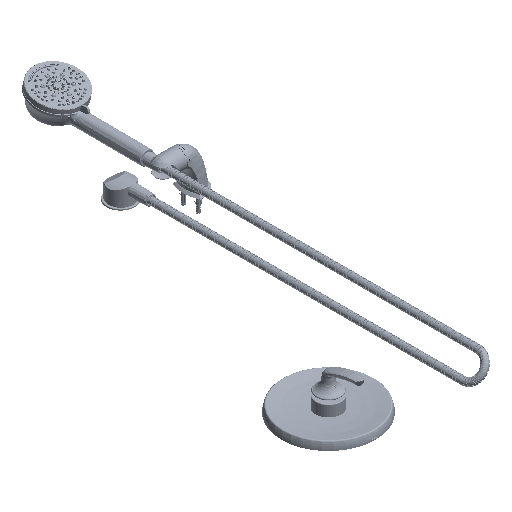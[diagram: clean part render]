
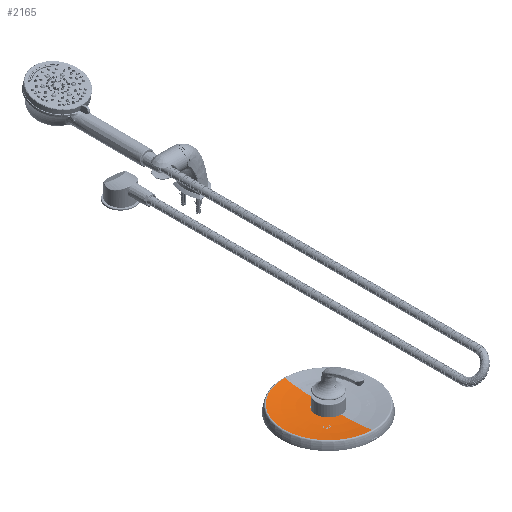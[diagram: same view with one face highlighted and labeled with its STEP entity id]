
A CAD part, isometric view. The second image highlights one B-rep face of the part: STEP entity #2165.
In plain terms, the highlighted toroidal (fillet/blend) face has major radius 24.22 mm and minor radius 411.226 mm.
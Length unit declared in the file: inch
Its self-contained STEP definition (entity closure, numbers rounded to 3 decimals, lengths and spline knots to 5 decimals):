
#2165 = ADVANCED_FACE ( 'NONE', ( #193964 ), #35028, .F. ) ;
#5084 = CARTESIAN_POINT ( 'NONE',  ( 0.0566, 13.55324, 0.61 ) ) ;
#16037 = VERTEX_POINT ( 'NONE', #16298 ) ;
#16298 = CARTESIAN_POINT ( 'NONE',  ( 0.01633, 11.02537, 0.4 ) ) ;
#28192 = CIRCLE ( 'NONE', #236576, 16.19 ) ;
#31257 = DIRECTION ( 'NONE',  ( 0.016, 1., 0. ) ) ;
#32469 = DIRECTION ( 'NONE',  ( 0., 0., -1. ) ) ;
#35028 = TOROIDAL_SURFACE ( 'NONE', #121570, 0.95354, 16.19 ) ;
#51766 = AXIS2_PLACEMENT_3D ( 'NONE', #230976, #62212, #233429 ) ;
#61093 = CIRCLE ( 'NONE', #242036, 3.55369 ) ;
#62212 = DIRECTION ( 'NONE',  ( 0., 0., -1. ) ) ;
#63411 = VERTEX_POINT ( 'NONE', #64283 ) ;
#64283 = CARTESIAN_POINT ( 'NONE',  ( -0.0566, 6.44676, 0.61 ) ) ;
#72945 = DIRECTION ( 'NONE',  ( -0.016, -1., 0. ) ) ;
#75199 = DIRECTION ( 'NONE',  ( 0.016, 1., 0. ) ) ;
#87896 = CARTESIAN_POINT ( 'NONE',  ( 0., 10., 16.58984 ) ) ;
#92641 = DIRECTION ( 'NONE',  ( -1., 0.016, 0. ) ) ;
#113381 = DIRECTION ( 'NONE',  ( 1., -0.016, 0. ) ) ;
#113906 = ORIENTED_EDGE ( 'NONE', *, *, #231250, .F. ) ;
#117555 = CIRCLE ( 'NONE', #160814, 16.19 ) ;
#121570 = AXIS2_PLACEMENT_3D ( 'NONE', #87896, #32469, #31257 ) ;
#122797 = ORIENTED_EDGE ( 'NONE', *, *, #161258, .F. ) ;
#133067 = CARTESIAN_POINT ( 'NONE',  ( -0.01519, 9.04658, 16.58984 ) ) ;
#134374 = CIRCLE ( 'NONE', #51766, 1.0255 ) ;
#160814 = AXIS2_PLACEMENT_3D ( 'NONE', #165376, #92641, #72945 ) ;
#161258 = EDGE_CURVE ( 'NONE', #205317, #16037, #117555, .T. ) ;
#165376 = CARTESIAN_POINT ( 'NONE',  ( 0.01519, 10.95342, 16.58984 ) ) ;
#171598 = VERTEX_POINT ( 'NONE', #210926 ) ;
#193964 = FACE_OUTER_BOUND ( 'NONE', #234454, .T. ) ;
#200100 = ORIENTED_EDGE ( 'NONE', *, *, #201385, .T. ) ;
#201385 = EDGE_CURVE ( 'NONE', #63411, #171598, #28192, .T. ) ;
#202031 = EDGE_CURVE ( 'NONE', #171598, #16037, #134374, .T. ) ;
#205317 = VERTEX_POINT ( 'NONE', #5084 ) ;
#210926 = CARTESIAN_POINT ( 'NONE',  ( -0.01633, 8.97463, 0.4 ) ) ;
#220181 = DIRECTION ( 'NONE',  ( 0., 0., -1. ) ) ;
#225016 = CARTESIAN_POINT ( 'NONE',  ( 0., 10., 0.61 ) ) ;
#230976 = CARTESIAN_POINT ( 'NONE',  ( 0., 10., 0.4 ) ) ;
#231250 = EDGE_CURVE ( 'NONE', #63411, #205317, #61093, .T. ) ;
#233429 = DIRECTION ( 'NONE',  ( 0.016, 1., 0. ) ) ;
#234454 = EDGE_LOOP ( 'NONE', ( #113906, #200100, #234654, #122797 ) ) ;
#234654 = ORIENTED_EDGE ( 'NONE', *, *, #202031, .T. ) ;
#236576 = AXIS2_PLACEMENT_3D ( 'NONE', #133067, #113381, #75199 ) ;
#239864 = DIRECTION ( 'NONE',  ( 0.016, 1., 0. ) ) ;
#242036 = AXIS2_PLACEMENT_3D ( 'NONE', #225016, #220181, #239864 ) ;
